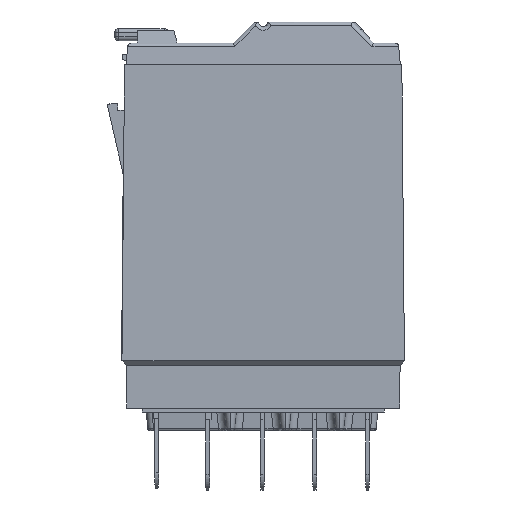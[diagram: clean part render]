
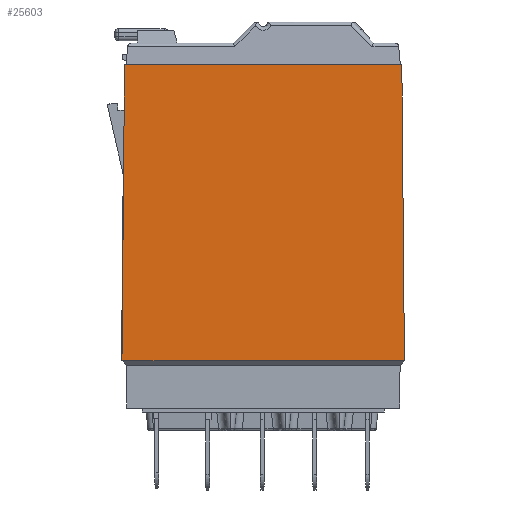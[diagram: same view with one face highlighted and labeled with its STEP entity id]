
A CAD part, left-side view. The second image highlights one B-rep face of the part: STEP entity #25603.
In plain terms, the highlighted planar face has unit normal (-1, 0, 0.009).
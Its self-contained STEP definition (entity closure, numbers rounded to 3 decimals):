
#1386 = EDGE_CURVE ( 'NONE', #20872, #28886, #21264, .T. ) ;
#2348 = CARTESIAN_POINT ( 'NONE',  ( 0., 0., 16.56 ) ) ;
#2466 = VECTOR ( 'NONE', #20569, 1000. ) ;
#4173 = CARTESIAN_POINT ( 'NONE',  ( 0., -0.005, 16.56 ) ) ;
#7831 = DIRECTION ( 'NONE',  ( -0.009, 0.009, -1. ) ) ;
#9432 = EDGE_CURVE ( 'NONE', #29032, #28886, #15526, .T. ) ;
#10591 = VECTOR ( 'NONE', #7831, 1000. ) ;
#11955 = PLANE ( 'NONE',  #14865 ) ;
#12088 = ORIENTED_EDGE ( 'NONE', *, *, #1386, .F. ) ;
#14865 = AXIS2_PLACEMENT_3D ( 'NONE', #25312, #17538, #20236 ) ;
#15526 = LINE ( 'NONE', #4173, #2466 ) ;
#17538 = DIRECTION ( 'NONE',  ( -1., 0., 0.009 ) ) ;
#17702 = VECTOR ( 'NONE', #32996, 1000. ) ;
#19984 = CARTESIAN_POINT ( 'NONE',  ( 0., 36.214, 16.56 ) ) ;
#20236 = DIRECTION ( 'NONE',  ( 0.009, 0., 1. ) ) ;
#20569 = DIRECTION ( 'NONE',  ( 0., -1., 0. ) ) ;
#20872 = VERTEX_POINT ( 'NONE', #34540 ) ;
#21264 = LINE ( 'NONE', #27576, #17702 ) ;
#22181 = EDGE_LOOP ( 'NONE', ( #24346, #25242, #12088, #31919 ) ) ;
#24229 = LINE ( 'NONE', #24936, #10591 ) ;
#24346 = ORIENTED_EDGE ( 'NONE', *, *, #35230, .T. ) ;
#24936 = CARTESIAN_POINT ( 'NONE',  ( -0.053, 36.267, 10.5 ) ) ;
#25242 = ORIENTED_EDGE ( 'NONE', *, *, #9432, .T. ) ;
#25312 = CARTESIAN_POINT ( 'NONE',  ( -0.053, 36.267, 10.5 ) ) ;
#25526 = LINE ( 'NONE', #28059, #27002 ) ;
#25603 = ADVANCED_FACE ( 'NONE', ( #31085 ), #11955, .T. ) ;
#27002 = VECTOR ( 'NONE', #28404, 1000. ) ;
#27576 = CARTESIAN_POINT ( 'NONE',  ( -0.053, -0.053, 10.5 ) ) ;
#28059 = CARTESIAN_POINT ( 'NONE',  ( 0.331, 36.267, 54.5 ) ) ;
#28404 = DIRECTION ( 'NONE',  ( 0., -1., 0. ) ) ;
#28886 = VERTEX_POINT ( 'NONE', #2348 ) ;
#29032 = VERTEX_POINT ( 'NONE', #19984 ) ;
#29276 = CARTESIAN_POINT ( 'NONE',  ( 0.331, 35.883, 54.5 ) ) ;
#29579 = VERTEX_POINT ( 'NONE', #29276 ) ;
#31085 = FACE_OUTER_BOUND ( 'NONE', #22181, .T. ) ;
#31919 = ORIENTED_EDGE ( 'NONE', *, *, #32817, .F. ) ;
#32817 = EDGE_CURVE ( 'NONE', #29579, #20872, #25526, .T. ) ;
#32996 = DIRECTION ( 'NONE',  ( -0.009, -0.009, -1. ) ) ;
#34540 = CARTESIAN_POINT ( 'NONE',  ( 0.331, 0.331, 54.5 ) ) ;
#35230 = EDGE_CURVE ( 'NONE', #29579, #29032, #24229, .T. ) ;
